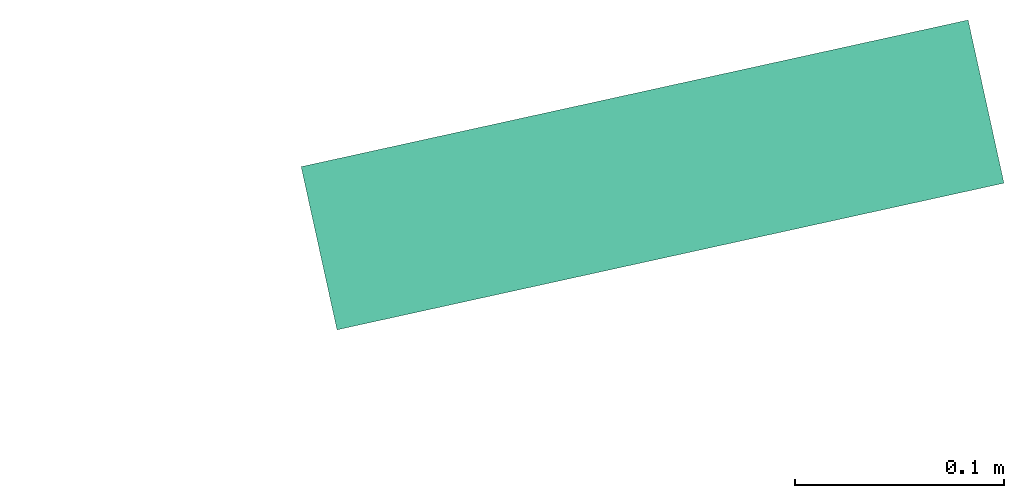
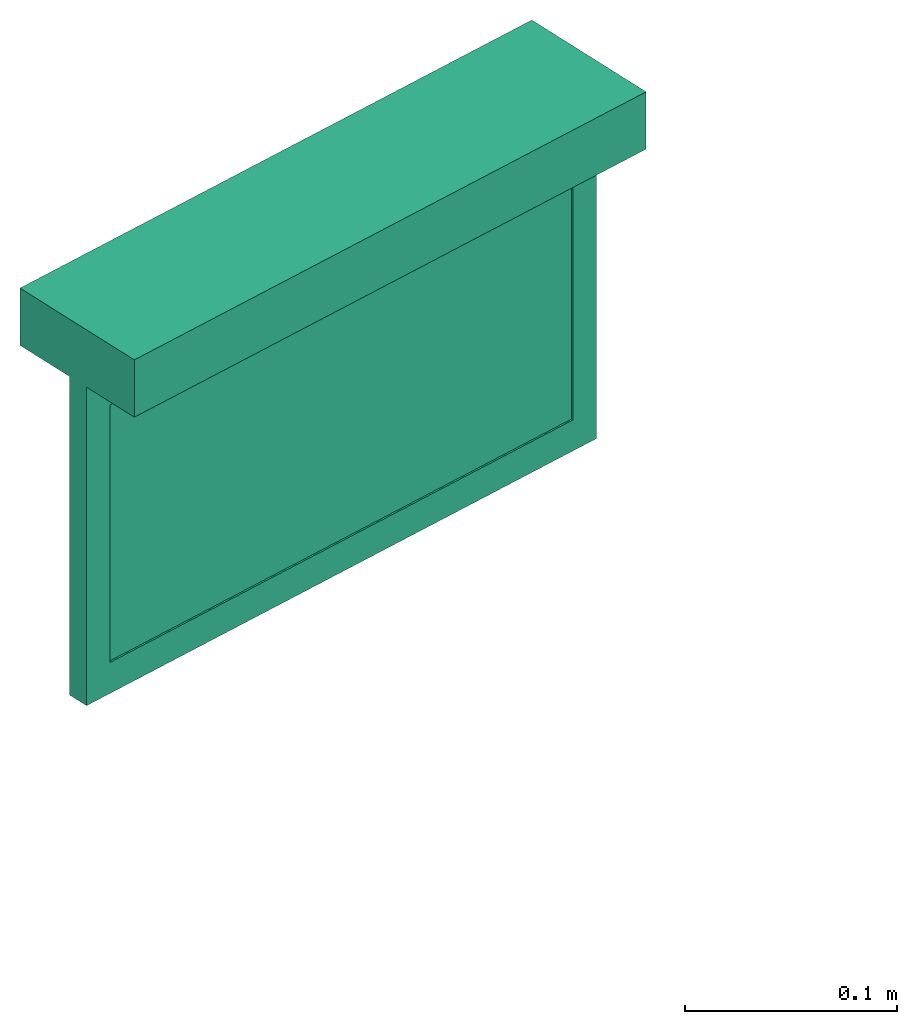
# One storey, part 2 of 2: 1 flow terminal.
"""IFC2X3 building model written with IfcOpenShell, lengths in millimetres."""

from ifc_helpers import new_model, entity, si_unit, converted_unit, derived_unit, direction, frame, origin, origin_with_axes, place, context, subcontext, project, spatial, open_shell, surface_model, source, transform, mapped, type_object, element, save


model = new_model("IFC2X3")

# Units and contexts
plan_context = context("Plan", 3, precision=1e-05, world=origin_with_axes())
model_context = context("Model", 3, precision=0.01, world=origin(), true_north=direction((6.12323399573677e-17, 1.0)))
body_context = subcontext(model_context, "Body", "Model", "MODEL_VIEW")
ifc_project = project(units=[converted_unit("PLANEANGLEUNIT", "DEGREE", entity("IfcPositiveLengthMeasure", 0.0174532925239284), si_unit("PLANEANGLEUNIT", "RADIAN"), dimensions=[0, 0, 0, 0, 0, 0, 0]), si_unit("AREAUNIT", "SQUARE_METRE"), si_unit("LENGTHUNIT", "METRE", prefix="MILLI"), si_unit("MASSUNIT", "GRAM", prefix="KILO"), si_unit("POWERUNIT", "WATT"), si_unit("PRESSUREUNIT", "PASCAL", prefix="KILO"), si_unit("FORCEUNIT", "NEWTON", prefix="KILO"), si_unit("ELECTRICVOLTAGEUNIT", "VOLT"), si_unit("ELECTRICCURRENTUNIT", "AMPERE"), si_unit("THERMODYNAMICTEMPERATUREUNIT", "DEGREE_CELSIUS"), si_unit("TIMEUNIT", "SECOND"), si_unit("VOLUMEUNIT", "CUBIC_METRE"), derived_unit("LINEARVELOCITYUNIT", [(si_unit("LENGTHUNIT", "METRE"), 1), (si_unit("TIMEUNIT", "SECOND"), -1)]), derived_unit("VOLUMETRICFLOWRATEUNIT", [(si_unit("VOLUMEUNIT", "CUBIC_METRE"), 1), (si_unit("TIMEUNIT", "SECOND"), -1)]), derived_unit("THERMALTRANSMITTANCEUNIT", [(si_unit("POWERUNIT", "WATT"), 1), (si_unit("THERMODYNAMICTEMPERATUREUNIT", "KELVIN"), -1), (si_unit("AREAUNIT", "SQUARE_METRE"), -1)]), derived_unit("SOUNDPRESSUREUNIT", [(si_unit("PRESSUREUNIT", "PASCAL"), 1)])], contexts=[model_context, plan_context])

# Site, building, storey
site_placement = place(None, frame((0.0, 0.0, 0.0), z_axis=(0.0, 0.0, 1.0), x_axis=(0.214788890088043, -0.97666050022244, 0.0)))
site = spatial("IfcSite", under=ifc_project, at=site_placement, CompositionType="ELEMENT")
building_placement = place(site_placement, origin_with_axes())
building = spatial("IfcBuilding", under=site, at=building_placement, Name="mc-building", CompositionType="ELEMENT")
storey_placement = place(building_placement, frame((0.0, 0.0, 5100.0), z_axis=(0.0, 0.0, 1.0), x_axis=(1.0, 0.0, 0.0)))
storey = spatial("IfcBuildingStorey", under=building, at=storey_placement, Name="Plan 01", CompositionType="ELEMENT", Elevation=5100.0)

# Flow terminal
light_fixture_type = type_object("IfcLightFixtureType", Name="JumboLED II Enkeltsidig PO/BL", PredefinedType="NOTDEFINED")
shared_shape = source(origin_with_axes(), body_context, "Body", "SurfaceModel", [
    surface_model("IfcShellBasedSurfaceModel", [(163.49999, 40.0, 0.0), (163.49999, -40.0, 0.0), (163.49999, -40.0, -33.0), (163.49999, 40.0, -33.0), (-163.49999, 40.0, -33.0), (-163.49999, -40.0, -33.0), (-163.49999, -40.0, 0.0), (-163.49999, 40.0, 0.0), (-147.85398, 5.0, -50.8274), (-142.45068, 5.0, -56.23071), (-142.45068, 5.0, -193.7693), (142.45068, 5.0, -56.23071), (-147.85398, 5.0, -199.1726), (142.45068, 5.0, -193.7693), (147.85398, 5.0, -50.8274), (147.85398, 5.0, -199.1726), (147.85398, 0.0, -50.8274), (142.45068, 0.0, -56.23071), (142.45068, 0.0, -193.7693), (-142.45068, 0.0, -56.23071), (147.85398, 0.0, -199.1726), (-142.45068, 0.0, -193.7693), (-147.85398, 0.0, -50.8274), (-147.85398, 0.0, -199.1726), (147.85398, -5.0, -50.8274), (142.45068, -5.0, -56.23071), (142.45068, -5.0, -193.7693), (-142.45068, -5.0, -56.23071), (147.85398, -5.0, -199.1726), (-142.45068, -5.0, -193.7693), (-147.85398, -5.0, -50.8274), (-147.85398, -5.0, -199.1726), (163.0, -6.0, -33.0), (147.85398, -6.0, -50.8274), (147.85398, -6.0, -199.1726), (-147.85398, -6.0, -50.8274), (163.0, -6.0, -217.0), (-147.85398, -6.0, -199.1726), (-163.0, -6.0, -33.0), (-163.0, -6.0, -217.0), (-163.0, 6.0, -33.0), (-147.85398, 6.0, -50.8274), (-147.85398, 6.0, -199.1726), (147.85398, 6.0, -50.8274), (-163.0, 6.0, -217.0), (147.85398, 6.0, -199.1726), (163.0, 6.0, -33.0), (163.0, 6.0, -217.0), (-118.92147, -5.0, -160.06272), (-119.00597, -5.0, -163.50301), (-115.64934, -5.0, -160.61805), (-104.56984, -5.0, -163.50301), (-77.07985, -5.0, -160.61805), (-115.30528, -5.0, -158.00467), (-118.02865, -5.0, -156.73922), (-114.29655, -5.0, -155.56939), (-116.37782, -5.0, -153.71971), (-112.6919, -5.0, -153.47815), (-111.21143, -5.0, -149.24617), (-114.06192, -5.0, -151.17423), (-110.60066, -5.0, -151.8735), (-104.56984, -5.0, -180.33741), (-76.18211, -5.0, -160.51048), (-60.36434, -5.0, -188.22701), (-75.33519, -5.0, -160.19384), (-52.47474, -5.0, -180.33741), (-74.58707, -5.0, -159.68604), (-108.16537, -5.0, -150.86477), (-107.98686, -5.0, -148.04411), (-105.55199, -5.0, -150.52071), (-104.56984, -5.0, -147.63576), (-83.1152, -5.0, -150.52071), (-73.98011, -5.0, -159.01588), (-112.45944, -5.0, -188.22701), (-96.34281, -5.0, -123.11339), (-97.22233, -5.0, -122.43852), (-95.3186, -5.0, -123.53764), (-97.89719, -5.0, -121.55901), (-98.32143, -5.0, -120.5348), (-94.21949, -5.0, -123.68233), (-81.35445, -5.0, -130.3953), (-93.12038, -5.0, -123.53764), (-98.46614, -5.0, -119.43569), (-98.32143, -5.0, -118.33657), (-104.56984, -5.0, -67.64681), (-97.89719, -5.0, -117.31236), (-89.69307, -5.0, -103.10241), (-91.21666, -5.0, -122.43852), (-92.09617, -5.0, -123.11339), (-90.54179, -5.0, -121.55901), (-80.30081, -5.0, -124.71034), (-78.18178, -5.0, -119.33088), (-82.56242, -5.0, -107.73834), (-88.61322, -5.0, -101.69513), (-87.20595, -5.0, -100.61528), (-85.56713, -5.0, -99.93647), (-83.80847, -5.0, -99.70493), (-72.27509, -5.0, -107.73834), (-63.22512, -5.0, -86.10305), (-49.58979, -5.0, -177.45245), (-73.3172, -5.0, -157.34723), (-73.54868, -5.0, -158.22127), (-70.40218, -5.0, -136.60582), (-52.79537, -5.0, -115.16582), (-59.82927, -5.0, -130.25007), (-43.33187, -5.0, -126.05233), (-56.835, -5.0, -97.17105), (-57.61205, -5.0, -99.70493), (-55.40805, -5.0, -99.95604), (-60.88617, -5.0, -94.8321), (-53.31703, -5.0, -100.69652), (-54.49606, -5.0, -97.47898), (-52.15711, -5.0, -97.17105), (-39.69209, -5.0, -180.33741), (-47.58169, -5.0, -188.22701), (-33.86031, -5.0, -188.22701), (-36.80713, -5.0, -177.45245), (-25.97071, -5.0, -180.33741), (-25.97071, -5.0, -126.05233), (-49.97756, -5.0, -96.26825), (-51.44616, -5.0, -101.88839), (-49.89136, -5.0, -103.47056), (-38.84566, -5.0, -117.60843), (-46.6698, -5.0, -92.96049), (-25.97071, -5.0, -117.60843), (-63.53304, -5.0, -88.44199), (-63.22512, -5.0, -90.78093), (-62.32232, -5.0, -92.96049), (-59.01455, -5.0, -96.26825), (-62.32232, -5.0, -83.9235), (-60.88617, -5.0, -82.05188), (-56.835, -5.0, -79.71294), (-54.49606, -5.0, -79.40501), (-25.97071, -5.0, -67.64681), (-59.01455, -5.0, -80.61574), (-48.10594, -5.0, -94.8321), (-45.767, -5.0, -90.78093), (-45.45907, -5.0, -88.44199), (-49.97756, -5.0, -80.61574), (-48.10594, -5.0, -82.05188), (-52.15711, -5.0, -79.71294), (-46.6698, -5.0, -83.9235), (-45.767, -5.0, -86.10305), (23.92484, -5.0, -128.36426), (52.5549, -5.0, -126.60087), (23.92484, -5.0, -95.89889), (65.11672, -5.0, -172.53714), (77.67854, -5.0, -126.60087), (52.5549, -5.0, -76.11414), (106.3086, -5.0, -128.36426), (106.3086, -5.0, -95.89889), (77.67854, -5.0, -76.11414), (-36.80713, 0.0, -177.45245), (-25.97071, 0.0, -180.33741), (-33.86031, 0.0, -188.22701), (-47.58169, 0.0, -188.22701), (-39.69209, 0.0, -180.33741), (-52.47474, 0.0, -180.33741), (-49.58979, 0.0, -177.45245), (-25.97071, 0.0, -126.05233), (-43.33187, 0.0, -126.05233), (-25.97071, 0.0, -117.60843), (-38.84566, 0.0, -117.60843), (-46.6698, 0.0, -92.96049), (-49.89136, 0.0, -103.47056), (-59.82927, 0.0, -130.25007), (-52.79537, 0.0, -115.16582), (-73.3172, 0.0, -157.34723), (-70.40218, 0.0, -136.60582), (-75.33519, 0.0, -160.19384), (-60.36434, 0.0, -188.22701), (-73.98011, 0.0, -159.01588), (-52.15711, 0.0, -97.17105), (-51.44616, 0.0, -101.88839), (-53.31703, 0.0, -100.69652), (-54.49606, 0.0, -97.47898), (-55.40805, 0.0, -99.95604), (-49.97756, 0.0, -96.26825), (-56.835, 0.0, -97.17105), (-57.61205, 0.0, -99.70493), (-73.54868, 0.0, -158.22127), (-45.45907, 0.0, -88.44199), (-25.97071, 0.0, -67.64681), (-45.767, 0.0, -90.78093), (-48.10594, 0.0, -94.8321), (-45.767, 0.0, -86.10305), (-46.6698, 0.0, -83.9235), (-48.10594, 0.0, -82.05188), (-49.97756, 0.0, -80.61574), (-52.15711, 0.0, -79.71294), (-54.49606, 0.0, -79.40501), (-59.01455, 0.0, -96.26825), (-60.88617, 0.0, -94.8321), (-83.80847, 0.0, -99.70493), (-63.22512, 0.0, -90.78093), (-62.32232, 0.0, -92.96049), (-63.53304, 0.0, -88.44199), (-56.835, 0.0, -79.71294), (-59.01455, 0.0, -80.61574), (-104.56984, 0.0, -67.64681), (-62.32232, 0.0, -83.9235), (-63.22512, 0.0, -86.10305), (-60.88617, 0.0, -82.05188), (-104.56984, 0.0, -180.33741), (-77.07985, 0.0, -160.61805), (-76.18211, 0.0, -160.51048), (-104.56984, 0.0, -163.50301), (-74.58707, 0.0, -159.68604), (-115.64934, 0.0, -160.61805), (-105.55199, 0.0, -150.52071), (-108.16537, 0.0, -150.86477), (-107.98686, 0.0, -148.04411), (-111.21143, 0.0, -149.24617), (-83.1152, 0.0, -150.52071), (-104.56984, 0.0, -147.63576), (-119.00597, 0.0, -163.50301), (-115.30528, 0.0, -158.00467), (-118.92147, 0.0, -160.06272), (-118.02865, 0.0, -156.73922), (-114.29655, 0.0, -155.56939), (-110.60066, 0.0, -151.8735), (-114.06192, 0.0, -151.17423), (-112.6919, 0.0, -153.47815), (-116.37782, 0.0, -153.71971), (-112.45944, 0.0, -188.22701), (-80.30081, 0.0, -124.71034), (-81.35445, 0.0, -130.3953), (-91.21666, 0.0, -122.43852), (-78.18178, 0.0, -119.33088), (-90.54179, 0.0, -121.55901), (-92.09617, 0.0, -123.11339), (-93.12038, 0.0, -123.53764), (-82.56242, 0.0, -107.73834), (-85.56713, 0.0, -99.93647), (-88.61322, 0.0, -101.69513), (-89.69307, 0.0, -103.10241), (-87.20595, 0.0, -100.61528), (-72.27509, 0.0, -107.73834), (-94.21949, 0.0, -123.68233), (-95.3186, 0.0, -123.53764), (-96.34281, 0.0, -123.11339), (-97.22233, 0.0, -122.43852), (-97.89719, 0.0, -121.55901), (-98.46614, 0.0, -119.43569), (-98.32143, 0.0, -120.5348), (-98.32143, 0.0, -118.33657), (-97.89719, 0.0, -117.31236), (106.3086, 0.0, -128.36426), (77.67854, 0.0, -126.60087), (106.3086, 0.0, -95.89889), (65.11672, 0.0, -172.53714), (52.5549, 0.0, -76.11414), (77.67854, 0.0, -76.11414), (23.92484, 0.0, -128.36426), (52.5549, 0.0, -126.60087), (23.92484, 0.0, -95.89889)], [open_shell([[[0, 1, 2]], [[2, 3, 0]], [[4, 5, 6]], [[6, 7, 4]], [[2, 1, 5]], [[6, 5, 1]], [[3, 2, 4]], [[5, 4, 2]], [[0, 3, 7]], [[4, 7, 3]], [[1, 0, 6]], [[7, 6, 0]], [[8, 9, 10]], [[9, 8, 11]], [[12, 10, 13]], [[10, 12, 8]], [[11, 14, 13]], [[14, 11, 8]], [[13, 15, 12]], [[15, 13, 14]], [[16, 17, 18]], [[17, 16, 19]], [[20, 18, 21]], [[18, 20, 16]], [[19, 22, 21]], [[22, 19, 16]], [[21, 23, 20]], [[23, 21, 22]], [[8, 12, 23]], [[23, 22, 8]], [[12, 15, 20]], [[20, 23, 12]], [[15, 14, 16]], [[16, 20, 15]], [[14, 8, 22]], [[22, 16, 14]], [[9, 11, 17]], [[17, 19, 9]], [[11, 13, 18]], [[18, 17, 11]], [[13, 10, 21]], [[21, 18, 13]], [[10, 9, 19]], [[19, 21, 10]], [[9, 10, 21]], [[21, 19, 9]], [[10, 13, 18]], [[18, 21, 10]], [[13, 11, 17]], [[17, 18, 13]], [[11, 9, 19]], [[19, 17, 11]], [[24, 25, 26]], [[25, 24, 27]], [[28, 26, 29]], [[26, 28, 24]], [[27, 30, 29]], [[30, 27, 24]], [[29, 31, 28]], [[31, 29, 30]], [[22, 19, 21]], [[19, 22, 17]], [[23, 21, 18]], [[21, 23, 22]], [[17, 16, 18]], [[16, 17, 22]], [[18, 20, 23]], [[20, 18, 16]], [[24, 28, 20]], [[20, 16, 24]], [[28, 31, 23]], [[23, 20, 28]], [[31, 30, 22]], [[22, 23, 31]], [[30, 24, 16]], [[16, 22, 30]], [[25, 27, 19]], [[19, 17, 25]], [[27, 29, 21]], [[21, 19, 27]], [[29, 26, 18]], [[18, 21, 29]], [[26, 25, 17]], [[17, 18, 26]], [[29, 27, 19]], [[19, 21, 29]], [[26, 29, 21]], [[21, 18, 26]], [[25, 26, 18]], [[18, 17, 25]], [[27, 25, 17]], [[17, 19, 27]], [[32, 33, 34]], [[33, 32, 35]], [[36, 34, 37]], [[34, 36, 32]], [[35, 38, 37]], [[38, 35, 32]], [[37, 39, 36]], [[39, 37, 38]], [[40, 41, 42]], [[41, 40, 43]], [[44, 42, 45]], [[42, 44, 40]], [[43, 46, 45]], [[46, 43, 40]], [[45, 47, 44]], [[47, 45, 46]], [[38, 32, 46]], [[46, 40, 38]], [[39, 38, 40]], [[40, 44, 39]], [[36, 39, 44]], [[44, 47, 36]], [[32, 36, 47]], [[47, 46, 32]], [[34, 33, 43]], [[43, 45, 34]], [[37, 34, 45]], [[45, 42, 37]], [[35, 37, 42]], [[42, 41, 35]], [[33, 35, 41]], [[41, 43, 33]], [[10, 9, 11]], [[11, 13, 10]], [[18, 17, 19]], [[19, 21, 18]], [[48, 49, 50]], [[49, 51, 50]], [[50, 51, 52]], [[50, 53, 48]], [[48, 53, 54]], [[54, 55, 56]], [[55, 54, 53]], [[56, 55, 57]], [[58, 59, 60]], [[57, 59, 56]], [[57, 60, 59]], [[61, 52, 51]], [[62, 52, 63]], [[63, 64, 62]], [[52, 61, 63]], [[64, 65, 66]], [[67, 68, 58]], [[68, 67, 69]], [[67, 58, 60]], [[68, 69, 70]], [[70, 69, 71]], [[66, 65, 72]], [[63, 61, 73]], [[70, 74, 75]], [[74, 70, 76]], [[70, 77, 78]], [[79, 76, 70]], [[80, 81, 79]], [[79, 70, 80]], [[82, 83, 84]], [[84, 83, 85]], [[78, 82, 70]], [[82, 84, 70]], [[86, 84, 85]], [[70, 75, 77]], [[87, 88, 80]], [[89, 87, 90]], [[90, 91, 89]], [[80, 90, 87]], [[88, 81, 80]], [[89, 91, 92]], [[93, 94, 84]], [[86, 93, 84]], [[95, 96, 84]], [[94, 95, 84]], [[92, 91, 97]], [[70, 71, 80]], [[84, 96, 98]], [[99, 100, 101]], [[100, 99, 102]], [[103, 104, 105]], [[72, 65, 99]], [[64, 63, 65]], [[106, 107, 108]], [[96, 107, 109]], [[108, 110, 111]], [[112, 111, 110]], [[111, 106, 108]], [[99, 101, 72]], [[65, 113, 99]], [[113, 114, 115]], [[99, 113, 116]], [[116, 115, 117]], [[115, 116, 113]], [[116, 117, 118]], [[116, 105, 104]], [[119, 120, 121]], [[121, 122, 123]], [[105, 116, 118]], [[110, 120, 112]], [[124, 123, 122]], [[125, 96, 126]], [[126, 96, 127]], [[128, 109, 107]], [[106, 128, 107]], [[96, 109, 127]], [[129, 130, 84]], [[129, 84, 98]], [[131, 132, 133]], [[134, 131, 84]], [[130, 134, 84]], [[98, 96, 125]], [[119, 112, 120]], [[135, 119, 121]], [[123, 124, 136]], [[136, 124, 137]], [[121, 123, 135]], [[138, 139, 133]], [[140, 138, 133]], [[141, 142, 133]], [[133, 142, 137]], [[141, 133, 139]], [[140, 133, 132]], [[137, 124, 133]], [[131, 133, 84]], [[143, 144, 145]], [[144, 143, 146]], [[144, 147, 148]], [[146, 149, 147]], [[150, 147, 149]], [[151, 148, 147]], [[147, 144, 146]], [[152, 153, 154]], [[155, 156, 154]], [[156, 157, 158]], [[152, 154, 156]], [[152, 156, 158]], [[152, 159, 153]], [[160, 159, 152]], [[161, 162, 163]], [[164, 163, 162]], [[152, 165, 160]], [[165, 166, 160]], [[167, 168, 158]], [[169, 157, 170]], [[157, 171, 158]], [[172, 173, 174]], [[175, 174, 176]], [[164, 173, 177]], [[178, 176, 179]], [[175, 176, 178]], [[158, 180, 167]], [[174, 175, 172]], [[181, 182, 161]], [[181, 161, 183]], [[177, 184, 164]], [[172, 177, 173]], [[161, 163, 183]], [[182, 185, 186]], [[185, 182, 181]], [[182, 186, 187]], [[188, 189, 182]], [[187, 188, 182]], [[182, 189, 190]], [[163, 164, 184]], [[191, 178, 179]], [[192, 191, 179]], [[193, 194, 195]], [[193, 196, 194]], [[193, 192, 179]], [[197, 198, 199]], [[190, 197, 182]], [[199, 200, 201]], [[202, 200, 199]], [[198, 202, 199]], [[201, 196, 193]], [[182, 197, 199]], [[193, 195, 192]], [[203, 204, 170]], [[169, 170, 205]], [[204, 203, 206]], [[204, 205, 170]], [[207, 157, 169]], [[204, 206, 208]], [[171, 180, 158]], [[209, 210, 211]], [[211, 210, 212]], [[213, 209, 214]], [[214, 209, 211]], [[207, 171, 157]], [[206, 215, 208]], [[216, 208, 217]], [[216, 217, 218]], [[217, 208, 215]], [[216, 218, 219]], [[212, 220, 221]], [[221, 220, 222]], [[220, 212, 210]], [[222, 223, 221]], [[223, 222, 219]], [[223, 219, 218]], [[224, 203, 170]], [[225, 226, 227]], [[228, 225, 229]], [[227, 229, 225]], [[230, 227, 226]], [[226, 231, 230]], [[228, 229, 232]], [[193, 233, 199]], [[234, 235, 199]], [[236, 234, 199]], [[233, 236, 199]], [[232, 237, 228]], [[231, 226, 238]], [[239, 238, 214]], [[240, 214, 241]], [[214, 240, 239]], [[226, 214, 238]], [[214, 242, 241]], [[199, 243, 214]], [[214, 243, 244]], [[245, 199, 246]], [[244, 242, 214]], [[199, 235, 246]], [[243, 199, 245]], [[226, 213, 214]], [[193, 199, 201]], [[247, 248, 249]], [[248, 247, 250]], [[248, 251, 252]], [[250, 253, 254]], [[251, 248, 254]], [[255, 254, 253]], [[254, 248, 250]], [[113, 65, 157]], [[157, 156, 113]], [[114, 113, 156]], [[156, 155, 114]], [[115, 114, 154]], [[155, 154, 114]], [[117, 115, 154]], [[154, 153, 117]], [[118, 117, 153]], [[153, 159, 118]], [[105, 118, 159]], [[159, 160, 105]], [[103, 105, 166]], [[160, 166, 105]], [[104, 103, 166]], [[166, 165, 104]], [[116, 104, 152]], [[165, 152, 104]], [[99, 116, 152]], [[152, 158, 99]], [[102, 99, 158]], [[158, 168, 102]], [[100, 102, 167]], [[168, 167, 102]], [[101, 100, 167]], [[72, 101, 180]], [[180, 101, 167]], [[207, 66, 171]], [[72, 180, 171]], [[72, 171, 66]], [[62, 64, 169]], [[52, 62, 205]], [[169, 64, 207]], [[62, 169, 205]], [[52, 205, 204]], [[66, 207, 64]], [[50, 52, 204]], [[204, 208, 50]], [[53, 50, 208]], [[55, 53, 216]], [[216, 53, 208]], [[222, 57, 219]], [[55, 216, 219]], [[55, 219, 57]], [[67, 60, 220]], [[69, 67, 210]], [[220, 60, 222]], [[67, 220, 210]], [[69, 210, 209]], [[57, 222, 60]], [[71, 69, 213]], [[209, 213, 69]], [[80, 71, 226]], [[213, 226, 71]], [[226, 90, 80]], [[225, 90, 226]], [[228, 91, 225]], [[90, 225, 91]], [[97, 91, 228]], [[228, 237, 97]], [[92, 97, 237]], [[237, 232, 92]], [[89, 92, 229]], [[232, 229, 92]], [[89, 229, 87]], [[87, 227, 88]], [[79, 81, 231]], [[230, 81, 88]], [[76, 79, 238]], [[227, 230, 88]], [[87, 229, 227]], [[240, 74, 239]], [[76, 238, 239]], [[238, 79, 231]], [[81, 230, 231]], [[76, 239, 74]], [[75, 241, 77]], [[77, 242, 78]], [[83, 82, 243]], [[244, 82, 78]], [[85, 83, 245]], [[241, 242, 77]], [[75, 240, 241]], [[83, 243, 245]], [[243, 82, 244]], [[78, 242, 244]], [[85, 245, 246]], [[74, 240, 75]], [[86, 85, 235]], [[246, 235, 85]], [[235, 93, 86]], [[235, 234, 93]], [[94, 93, 234]], [[236, 94, 234]], [[233, 96, 95]], [[236, 233, 95]], [[193, 96, 233]], [[94, 236, 95]], [[107, 96, 179]], [[193, 179, 96]], [[179, 108, 107]], [[179, 176, 108]], [[110, 108, 176]], [[174, 110, 176]], [[173, 121, 120]], [[174, 173, 120]], [[164, 121, 173]], [[110, 174, 120]], [[122, 121, 164]], [[164, 162, 122]], [[124, 122, 162]], [[162, 161, 124]], [[133, 124, 161]], [[161, 182, 133]], [[84, 133, 182]], [[182, 199, 84]], [[70, 84, 199]], [[199, 214, 70]], [[68, 214, 211]], [[211, 212, 58]], [[221, 59, 212]], [[70, 214, 68]], [[58, 68, 211]], [[59, 58, 212]], [[221, 56, 59]], [[54, 223, 218]], [[218, 217, 48]], [[215, 49, 217]], [[56, 223, 54]], [[48, 54, 218]], [[49, 48, 217]], [[223, 56, 221]], [[51, 49, 206]], [[215, 206, 49]], [[61, 51, 203]], [[206, 203, 51]], [[73, 61, 224]], [[203, 224, 61]], [[63, 73, 224]], [[224, 170, 63]], [[65, 63, 157]], [[170, 157, 63]], [[146, 143, 253]], [[253, 250, 146]], [[149, 146, 250]], [[250, 247, 149]], [[150, 149, 247]], [[247, 249, 150]], [[147, 150, 249]], [[249, 248, 147]], [[151, 147, 248]], [[248, 252, 151]], [[148, 151, 252]], [[252, 251, 148]], [[144, 148, 251]], [[251, 254, 144]], [[145, 144, 255]], [[254, 255, 144]], [[143, 145, 255]], [[255, 253, 143]], [[125, 196, 98]], [[98, 201, 129]], [[134, 130, 202]], [[200, 130, 129]], [[131, 134, 198]], [[201, 200, 129]], [[98, 196, 201]], [[190, 132, 197]], [[131, 198, 197]], [[198, 134, 202]], [[130, 200, 202]], [[131, 197, 132]], [[140, 189, 138]], [[138, 188, 139]], [[142, 141, 186]], [[187, 141, 139]], [[137, 142, 185]], [[189, 188, 138]], [[140, 190, 189]], [[142, 186, 185]], [[186, 141, 187]], [[139, 188, 187]], [[137, 185, 181]], [[132, 190, 140]], [[137, 181, 136]], [[136, 183, 123]], [[119, 135, 184]], [[163, 135, 123]], [[112, 119, 177]], [[183, 163, 123]], [[136, 181, 183]], [[175, 111, 172]], [[112, 177, 172]], [[177, 119, 184]], [[135, 163, 184]], [[112, 172, 111]], [[106, 178, 128]], [[128, 191, 109]], [[126, 127, 195]], [[192, 127, 109]], [[125, 126, 194]], [[178, 191, 128]], [[106, 175, 178]], [[126, 195, 194]], [[195, 127, 192]], [[109, 191, 192]], [[125, 194, 196]], [[111, 175, 106]], [[27, 84, 133]], [[84, 27, 58]], [[92, 86, 85]], [[89, 92, 85]], [[96, 95, 92]], [[94, 93, 92]], [[92, 93, 86]], [[94, 92, 95]], [[96, 92, 97]], [[85, 83, 78]], [[78, 77, 85]], [[74, 85, 75]], [[85, 77, 75]], [[74, 76, 85]], [[89, 88, 87]], [[89, 85, 88]], [[85, 81, 88]], [[79, 81, 85]], [[76, 79, 85]], [[78, 83, 82]], [[27, 59, 58]], [[108, 103, 110]], [[120, 110, 103]], [[103, 108, 107]], [[145, 133, 124]], [[25, 151, 150]], [[151, 25, 148]], [[145, 148, 133]], [[145, 144, 148]], [[151, 147, 150]], [[25, 133, 148]], [[25, 150, 149]], [[133, 25, 27]], [[120, 103, 121]], [[103, 107, 97]], [[91, 104, 97]], [[97, 104, 103]], [[121, 103, 122]], [[122, 118, 124]], [[118, 122, 105]], [[124, 118, 143]], [[122, 103, 105]], [[145, 124, 143]], [[104, 91, 90]], [[96, 97, 107]], [[60, 50, 67]], [[68, 84, 58]], [[67, 50, 69]], [[69, 50, 52]], [[80, 71, 102]], [[50, 60, 57]], [[68, 70, 84]], [[56, 27, 54]], [[48, 29, 49]], [[29, 48, 54]], [[49, 29, 73]], [[27, 29, 54]], [[55, 53, 50]], [[49, 61, 51]], [[52, 71, 69]], [[49, 73, 61]], [[57, 55, 50]], [[29, 63, 73]], [[59, 27, 56]], [[66, 72, 100]], [[66, 100, 64]], [[62, 64, 100]], [[101, 100, 72]], [[99, 104, 102]], [[104, 90, 102]], [[62, 100, 52]], [[118, 117, 143]], [[104, 99, 116]], [[100, 102, 71]], [[65, 63, 114]], [[63, 29, 114]], [[114, 113, 65]], [[143, 117, 146]], [[146, 117, 115]], [[115, 26, 146]], [[115, 114, 29]], [[146, 26, 149]], [[26, 115, 29]], [[71, 52, 100]], [[149, 26, 25]], [[90, 80, 102]], [[131, 134, 130]], [[131, 130, 129]], [[129, 98, 125]], [[131, 129, 138]], [[126, 139, 129]], [[132, 138, 140]], [[132, 131, 138]], [[139, 142, 141]], [[138, 129, 139]], [[139, 136, 142]], [[126, 129, 125]], [[126, 127, 109]], [[136, 126, 109]], [[109, 106, 112]], [[106, 109, 128]], [[111, 112, 106]], [[136, 135, 123]], [[137, 142, 136]], [[135, 112, 119]], [[112, 135, 136]], [[109, 112, 136]], [[136, 139, 126]], [[224, 21, 215]], [[215, 21, 217]], [[218, 217, 21]], [[218, 19, 223]], [[224, 215, 203]], [[222, 208, 219]], [[206, 203, 215]], [[220, 208, 222]], [[216, 219, 208]], [[21, 224, 170]], [[19, 212, 221]], [[223, 19, 221]], [[208, 210, 209]], [[204, 209, 213]], [[204, 208, 209]], [[199, 214, 211]], [[213, 226, 168]], [[212, 199, 211]], [[208, 220, 210]], [[218, 21, 19]], [[154, 21, 155]], [[155, 170, 157]], [[156, 155, 157]], [[18, 154, 250]], [[18, 21, 154]], [[250, 153, 253]], [[153, 250, 154]], [[18, 250, 247]], [[152, 158, 165]], [[155, 21, 170]], [[169, 205, 167]], [[207, 167, 171]], [[169, 167, 207]], [[167, 205, 204]], [[171, 167, 180]], [[204, 213, 167]], [[168, 165, 158]], [[253, 153, 159]], [[165, 168, 225]], [[213, 168, 167]], [[18, 247, 17]], [[225, 168, 226]], [[246, 239, 240]], [[246, 241, 242]], [[240, 241, 246]], [[238, 239, 246]], [[246, 230, 231]], [[230, 229, 227]], [[246, 229, 230]], [[246, 231, 238]], [[246, 242, 244]], [[245, 246, 244]], [[199, 19, 182]], [[246, 232, 229]], [[232, 235, 234]], [[235, 232, 246]], [[232, 234, 236]], [[233, 193, 232]], [[233, 232, 236]], [[232, 193, 237]], [[244, 243, 245]], [[212, 19, 199]], [[165, 225, 228]], [[237, 166, 165]], [[164, 162, 166]], [[165, 228, 237]], [[160, 166, 162]], [[159, 162, 161]], [[162, 159, 160]], [[161, 253, 159]], [[161, 255, 253]], [[179, 166, 237]], [[164, 166, 173]], [[166, 176, 174]], [[173, 166, 174]], [[179, 176, 166]], [[251, 255, 182]], [[248, 252, 249]], [[254, 255, 251]], [[251, 17, 252]], [[17, 251, 182]], [[17, 182, 19]], [[252, 17, 249]], [[161, 182, 255]], [[249, 17, 247]], [[237, 193, 179]], [[178, 172, 175]], [[192, 178, 191]], [[192, 195, 194]], [[172, 178, 192]], [[172, 192, 194]], [[172, 184, 177]], [[184, 172, 183]], [[184, 183, 163]], [[183, 172, 187]], [[183, 185, 181]], [[187, 172, 194]], [[196, 201, 200]], [[200, 187, 194]], [[202, 198, 197]], [[202, 197, 200]], [[188, 200, 197]], [[185, 187, 186]], [[183, 187, 185]], [[188, 190, 189]], [[188, 187, 200]], [[190, 188, 197]], [[200, 194, 196]], [[124, 133, 182]], [[182, 161, 124]], [[122, 124, 162]], [[161, 162, 124]], [[121, 122, 164]], [[162, 164, 122]], [[164, 173, 120]], [[164, 120, 121]], [[120, 173, 110]], [[173, 174, 110]], [[174, 176, 108]], [[176, 107, 108]], [[107, 176, 179]], [[174, 108, 110]], [[96, 107, 193]], [[179, 193, 107]], [[193, 233, 95]], [[193, 95, 96]], [[95, 233, 94]], [[233, 236, 94]], [[236, 234, 93]], [[234, 86, 93]], [[86, 234, 235]], [[236, 93, 94]], [[85, 86, 235]], [[235, 246, 85]], [[245, 83, 246]], [[243, 82, 245]], [[77, 244, 242]], [[243, 244, 78]], [[75, 242, 241]], [[245, 82, 83]], [[83, 85, 246]], [[75, 77, 242]], [[78, 244, 77]], [[78, 82, 243]], [[74, 75, 241]], [[241, 240, 74]], [[239, 76, 240]], [[238, 79, 239]], [[88, 231, 230]], [[238, 231, 81]], [[87, 230, 227]], [[238, 81, 79]], [[79, 76, 239]], [[89, 87, 227]], [[88, 230, 87]], [[88, 81, 231]], [[229, 89, 227]], [[240, 76, 74]], [[92, 89, 229]], [[229, 232, 92]], [[97, 92, 232]], [[232, 237, 97]], [[91, 97, 228]], [[237, 228, 97]], [[91, 228, 90]], [[90, 228, 225]], [[225, 226, 80]], [[225, 80, 90]], [[71, 80, 226]], [[226, 213, 71]], [[69, 71, 209]], [[213, 209, 71]], [[52, 50, 204]], [[208, 204, 50]], [[62, 204, 205]], [[64, 205, 169]], [[52, 204, 62]], [[64, 62, 205]], [[66, 64, 169]], [[169, 207, 66]], [[72, 207, 171]], [[101, 171, 180]], [[72, 171, 101]], [[100, 101, 180]], [[167, 100, 180]], [[207, 72, 66]], [[102, 100, 167]], [[167, 168, 102]], [[99, 102, 168]], [[168, 158, 99]], [[116, 99, 152]], [[158, 152, 99]], [[104, 116, 152]], [[152, 165, 104]], [[103, 104, 165]], [[165, 166, 103]], [[105, 103, 160]], [[166, 160, 103]], [[118, 105, 159]], [[160, 159, 105]], [[117, 118, 159]], [[159, 153, 117]], [[115, 117, 154]], [[153, 154, 117]], [[114, 115, 155]], [[154, 155, 115]], [[65, 113, 157]], [[156, 157, 113]], [[73, 63, 170]], [[170, 224, 73]], [[61, 73, 203]], [[224, 203, 73]], [[51, 61, 203]], [[203, 206, 51]], [[49, 51, 215]], [[206, 215, 51]], [[84, 70, 199]], [[214, 199, 70]], [[133, 84, 199]], [[199, 182, 133]], [[194, 126, 196]], [[195, 127, 194]], [[128, 192, 191]], [[195, 192, 109]], [[106, 191, 178]], [[194, 127, 126]], [[126, 125, 196]], [[106, 128, 191]], [[109, 192, 128]], [[109, 127, 195]], [[111, 106, 178]], [[178, 175, 111]], [[172, 112, 175]], [[177, 119, 172]], [[123, 184, 163]], [[177, 184, 135]], [[136, 163, 183]], [[177, 135, 119]], [[119, 112, 172]], [[137, 136, 183]], [[123, 163, 136]], [[123, 135, 184]], [[181, 137, 183]], [[175, 112, 111]], [[185, 142, 181]], [[186, 141, 185]], [[138, 187, 188]], [[186, 187, 139]], [[140, 188, 189]], [[185, 141, 142]], [[142, 137, 181]], [[140, 138, 188]], [[139, 187, 138]], [[139, 141, 186]], [[132, 140, 189]], [[189, 190, 132]], [[197, 131, 190]], [[198, 134, 197]], [[129, 202, 200]], [[198, 202, 130]], [[98, 200, 201]], [[198, 130, 134]], [[134, 131, 197]], [[125, 98, 201]], [[129, 200, 98]], [[129, 130, 202]], [[196, 125, 201]], [[190, 131, 132]], [[147, 151, 252]], [[252, 248, 147]], [[150, 147, 248]], [[248, 249, 150]], [[149, 150, 249]], [[249, 247, 149]], [[146, 149, 250]], [[247, 250, 149]], [[143, 146, 250]], [[250, 253, 143]], [[145, 143, 253]], [[253, 255, 145]], [[144, 145, 255]], [[255, 254, 144]], [[148, 144, 254]], [[254, 251, 148]], [[151, 148, 251]], [[251, 252, 151]], [[67, 209, 210]], [[60, 210, 220]], [[69, 209, 67]], [[60, 67, 210]], [[57, 60, 220]], [[220, 222, 57]], [[55, 222, 219]], [[53, 219, 216]], [[55, 219, 53]], [[50, 53, 216]], [[208, 50, 216]], [[222, 55, 57]], [[113, 114, 155]], [[155, 156, 113]], [[63, 65, 157]], [[157, 170, 63]], [[48, 49, 215]], [[217, 54, 48]], [[54, 218, 56]], [[217, 48, 215]], [[54, 217, 218]], [[56, 218, 223]], [[223, 59, 56]], [[58, 59, 221]], [[212, 68, 58]], [[68, 211, 70]], [[212, 58, 221]], [[68, 212, 211]], [[70, 211, 214]], [[223, 221, 59]]])]),
])
flow_terminal_placement = place(storey_placement, frame((-201384.82774, 382762.69873, 3200.0), z_axis=(0.0, 0.0, 1.0), x_axis=(0.0, -1.0, 0.0)))
element("IfcFlowTerminal", 1, at=flow_terminal_placement, inside=storey, type_object=light_fixture_type, Name="JumboLED II Enkeltsidig PO/BL", context=body_context, shape_type="MappedRepresentation", body=[
    mapped(shared_shape, transform((0.0, 0.0, 0.0), scale=1.0)),
])

save(model, "model.ifc")
